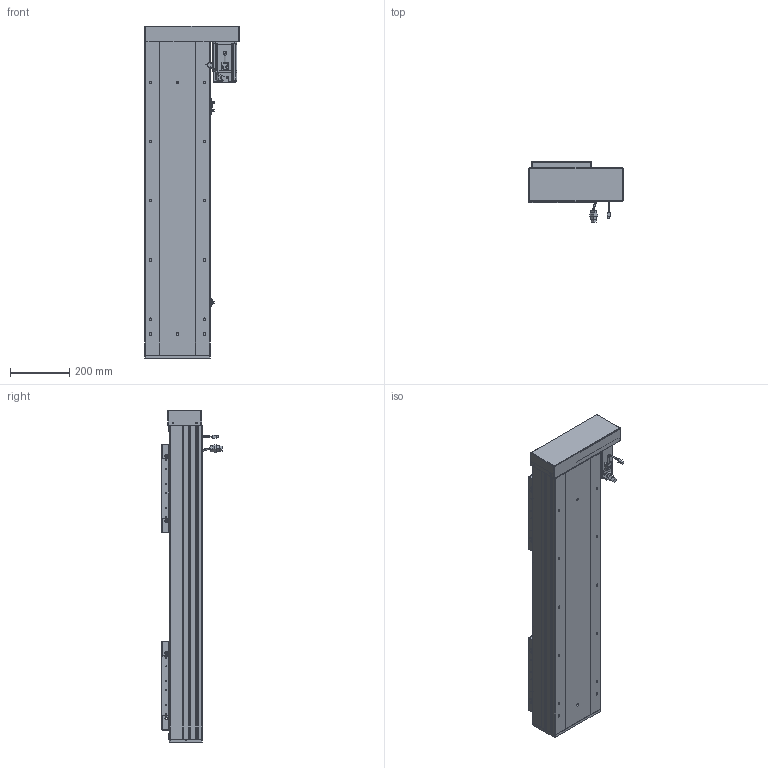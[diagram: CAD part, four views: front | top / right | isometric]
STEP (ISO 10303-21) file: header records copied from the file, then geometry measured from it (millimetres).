
FILE_DESCRIPTION (( 'STEP AP203' ), '1' );
FILE_NAME ('RY220F-L2525-300-RK.SLDASM_650.step', '2022-07-04T01:35:02', ( '' ), ( '' ), 'SwSTEP 2.0', 'SolidWorks 2016', '' );
FILE_SCHEMA (( 'CONFIG_CONTROL_DESIGN' ));
Length unit declared in the file: millimetre
Products named in the file (15): RY220酘衵殏萇儂欶; 怢湛750W_ECMA-CX0807ES; 覜茼ん672; RY220F蛌殏菁釱-300_650; RY220F-詩湍揤踡輸; 滅袉蝶18-24; RY220F-祥凄詩湍-蛌殏-300_650; RY220F-蛌殏奻裔啣-300_650; 侐源滅袉蝶; RY220F-滅鳥奻裔; RY220F臏賑釱25-32佪裝; RY220F-672覜茼んえ; RY220F-L2525-300-RK.SLDASM_650; RY220左右折电机安装板; RY220F綴裔啣
Assembly tree (24 placements, depth 2):
  RY220F-L2525-300-RK.SLDASM_650
    RY220F蛌殏菁釱-300_650
    RY220F-蛌殏奻裔啣-300_650  x2
    怢湛750W_ECMA-CX0807ES
    RY220F臏賑釱25-32佪裝  x2
    RY220F-滅鳥奻裔  x2
    滅袉蝶18-24  x3
    RY220F綴裔啣
    RY220F-祥凄詩湍-蛌殏-300_650
    RY220F-詩湍揤踡輸  x2
    覜茼ん672  x3
    RY220F-672覜茼んえ  x2
    RY220左右折电机安装板
    RY220酘衵殏萇儂欶
    侐源滅袉蝶  x2
Bounding box: 317.5 x 205.27 x 1121 mm (x, y, z)
Volume: 12140415.3 mm3; surface area: 3126975.2 mm2
Topology: 25 solids, 25 shells, 2684 faces, 7316 edges, 4550 vertices
Faces by surface type: cylinder 1202, plane 1044, cone 367, bspline 45, sphere 16, torus 10
Entity records: 66416 total; most frequent: CARTESIAN_POINT 18275, ORIENTED_EDGE 9758, DIRECTION 9396, EDGE_CURVE 4879, AXIS2_PLACEMENT_3D 3322, VERTEX_POINT 3166, VECTOR 2752, LINE 2752
